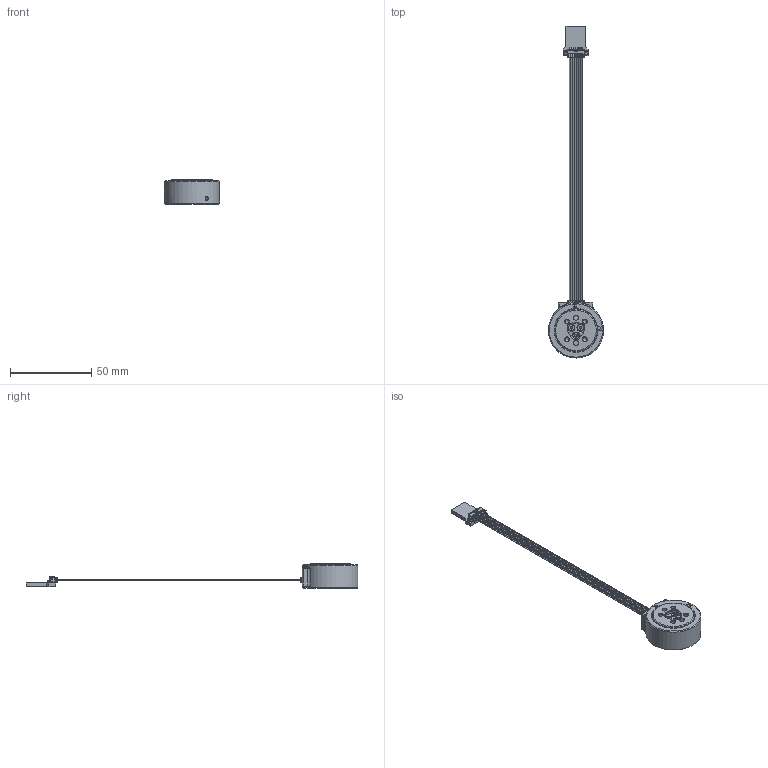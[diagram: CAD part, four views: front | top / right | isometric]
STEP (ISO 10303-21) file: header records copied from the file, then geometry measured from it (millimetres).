
FILE_DESCRIPTION (( 'STEP AP214' ), '1' );
FILE_NAME ('TactX GenA Series with USB Adapter 3D File .STEP', '2026-04-27T09:58:41', ( '' ), ( '' ), 'SwSTEP 2.0', 'SolidWorks 2022', '' );
FILE_SCHEMA (( 'AUTOMOTIVE_DESIGN' ));
Length unit declared in the file: millimetre
Products named in the file (22): MIN-P021_SE CUT 1; FP-53261-0771-MFG_CMP-04776-000278-1; 91800A050_18-8 Stainless Steel Cheese Head Slotted Screw_91800A050; TactX GenA Series with USB Adapter 3D File ; IPS-4056T-01Y900-Footprint-1_CMP-002-00146-1; 0151340702; PAR-00006_PAR-00006; MIN-P022_Thinner One side; MiniOne_Gen_B_TOP_-_SideConn-V2; MiniOne_Gen_B_TOP_-_SideConn-V2_BOARD; ISO 14581 M2x8x8-S-A2-70-NT_ISO 14581 M2x8x8-S-A2-70-NT; ISO 8734 - 1 x 3 - C1-m6-S-HR_ISO 8734 - 1 x 3 - C1-m6-S-HR; MIN-P021_SE Cut 2; DIN 912 M2.5 x 6 --- 6S-A2-70-NT_DIN 912 M2.5 x 6 --- 6S-A2-70-NT; MiniOne_USB_BOARD; MiniOne_USB
Assembly tree (21 placements, depth 3):
  MIN-P021_SE CUT 1
  TactX GenA Series with USB Adapter 3D File 
    MIN-P021_SE Cut 2
    MIN-P022_Thinner One side
    MiniOne_Gen_B_TOP_-_SideConn-V2
      MiniOne_Gen_B_TOP_-_SideConn-V2_BOARD
      FP-53261-0771-MFG_CMP-04776-000278-1
    91800A050_18-8 Stainless Steel Cheese Head Slotted Screw_91800A050
    91800A050_18-8 Stainless Steel Cheese Head Slotted Screw_91800A050
    91800A050_18-8 Stainless Steel Cheese Head Slotted Screw_91800A050
    DIN 912 M2.5 x 6 --- 6S-A2-70-NT_DIN 912 M2.5 x 6 --- 6S-A2-70-NT
    DIN 912 M2.5 x 6 --- 6S-A2-70-NT_DIN 912 M2.5 x 6 --- 6S-A2-70-NT
    DIN 912 M2.5 x 6 --- 6S-A2-70-NT_DIN 912 M2.5 x 6 --- 6S-A2-70-NT
    PAR-00006_PAR-00006
    PAR-00006_PAR-00006
    ISO 14581 M2x8x8-S-A2-70-NT_ISO 14581 M2x8x8-S-A2-70-NT  x3
    ISO 8734 - 1 x 3 - C1-m6-S-HR_ISO 8734 - 1 x 3 - C1-m6-S-HR
    0151340702
    MiniOne_USB
      MiniOne_USB_BOARD
      FP-53261-0771-MFG_CMP-04776-000278-1
  IPS-4056T-01Y900-Footprint-1_CMP-002-00146-1
Bounding box: 34.01 x 204.83 x 15 mm (x, y, z)
Volume: 9369.5 mm3; surface area: 11176.8 mm2
Topology: 63 solids, 63 shells, 3324 faces, 7991 edges, 4722 vertices
Faces by surface type: plane 1620, cylinder 966, sphere 288, cone 203, bspline 164, torus 83
Full cylindrical faces by diameter (mm): 0.8 x3, 1 x1, 1.25 x2, 1.5 x4, 1.6 x2, 2 x51, 2.2 x4, 2.4 x3, 2.5 x10, 3 x4, 3.8 x3, 4.5 x3, 5.2 x3, 23.33 x1, 25.67 x1, 26 x2, 26.5 x1, 34 x1
Entity records: 97481 total; most frequent: CARTESIAN_POINT 22206, ORIENTED_EDGE 14764, DIRECTION 14347, EDGE_CURVE 7382, VECTOR 5059, LINE 5059, AXIS2_PLACEMENT_3D 4644, VERTEX_POINT 4518
